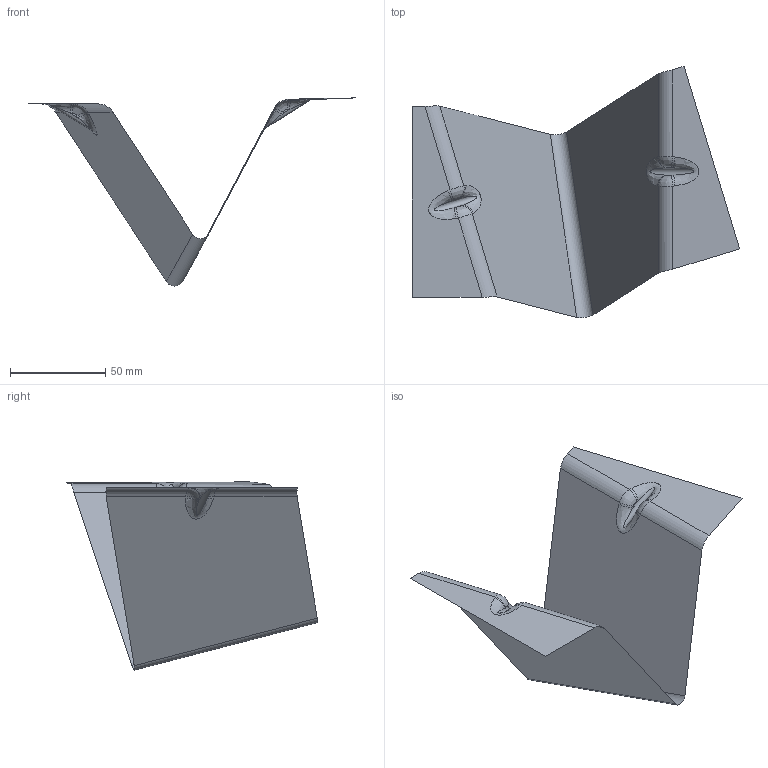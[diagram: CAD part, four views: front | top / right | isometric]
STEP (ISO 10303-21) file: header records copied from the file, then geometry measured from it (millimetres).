
FILE_DESCRIPTION(('CATIA V5 STEP Exchange'),'2;1');
FILE_NAME('C:\_Andres\UNIVERSIDAD\IQS\ASIGNATURAS\DAO\EXF\EXF-16172c\2inicio\Reyes_Carmenaty_Ej03_v27.stp','2017-03-05T19:32:28+00:00',('none'),('none'),'CATIA Version 5-6 Release 2014 SP1 HF18','CATIA V5 STEP AP203','none');
FILE_SCHEMA(('CONFIG_CONTROL_DESIGN'));
Length unit declared in the file: millimetre
Products named in the file (1): Reyes_Carmenaty_Ej03_v27
Bounding box: 171.28 x 131.6 x 98.54 mm (x, y, z)
Surface area: 25797.9 mm2 (no closed solid volume)
Topology: 0 solids, 1 shells, 31 faces, 78 edges, 48 vertices
Faces by surface type: cylinder 15, plane 8, bspline 8
Entity records: 2443 total; most frequent: CARTESIAN_POINT 1770, ORIENTED_EDGE 140, DIRECTION 90, EDGE_CURVE 78, VERTEX_POINT 48, VECTOR 40, LINE 40, ADVANCED_FACE 31
